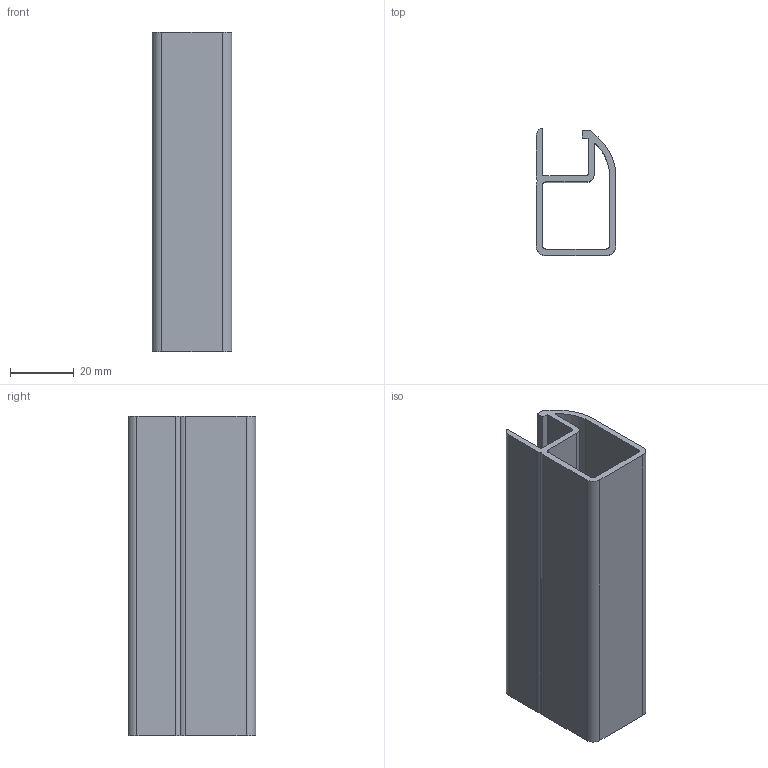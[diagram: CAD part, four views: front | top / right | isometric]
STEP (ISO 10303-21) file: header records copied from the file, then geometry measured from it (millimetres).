
FILE_DESCRIPTION (( 'STEP AP203' ), '1' );
FILE_NAME ('013.025.006.STEP', '2020-07-22T08:57:12', ( '' ), ( '' ), 'SwSTEP 2.0', 'SolidWorks 2018', '' );
FILE_SCHEMA (( 'CONFIG_CONTROL_DESIGN' ));
Length unit declared in the file: millimetre
Products named in the file (1): 013.025.006
Bounding box: 25 x 39.89 x 100 mm (x, y, z)
Volume: 25553.4 mm3; surface area: 26025.5 mm2
Topology: 1 solids, 1 shells, 35 faces, 99 edges, 66 vertices
Faces by surface type: plane 17, cylinder 17, bspline 1
Entity records: 1234 total; most frequent: CARTESIAN_POINT 214, DIRECTION 201, ORIENTED_EDGE 198, EDGE_CURVE 99, AXIS2_PLACEMENT_3D 69, VERTEX_POINT 66, LINE 63, VECTOR 63
